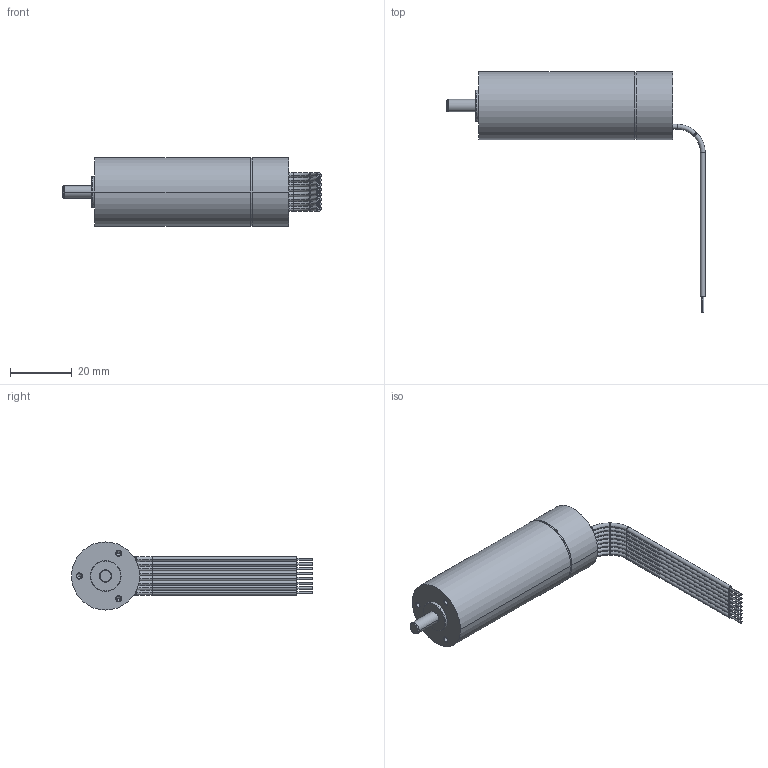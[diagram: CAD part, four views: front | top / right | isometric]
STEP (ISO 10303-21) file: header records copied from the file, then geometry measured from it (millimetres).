
FILE_DESCRIPTION((''),'2;1');
FILE_NAME('1116411_ASM','2010-03-10T',('MMAGBRD'),(''),'PRO/ENGINEER BY PARAMETRIC TECHNOLOGY CORPORATION, 2009230','PRO/ENGINEER BY PARAMETRIC TECHNOLOGY CORPORATION, 2009230','');
FILE_SCHEMA(('CONFIG_CONTROL_DESIGN'));
Length unit declared in the file: millimetre
Products named in the file (1): 1116411_ASM
Bounding box: 83.47 x 77.8 x 22 mm (x, y, z)
Volume: 24918.3 mm3; surface area: 8187.9 mm2
Topology: 1 solids, 4 shells, 165 faces, 361 edges, 211 vertices
Faces by surface type: cylinder 90, torus 38, plane 29, cone 8
Entity records: 4604 total; most frequent: DIRECTION 926, CARTESIAN_POINT 792, ORIENTED_EDGE 698, AXIS2_PLACEMENT_3D 411, EDGE_CURVE 355, CIRCLE 245, VERTEX_POINT 211, EDGE_LOOP 184
